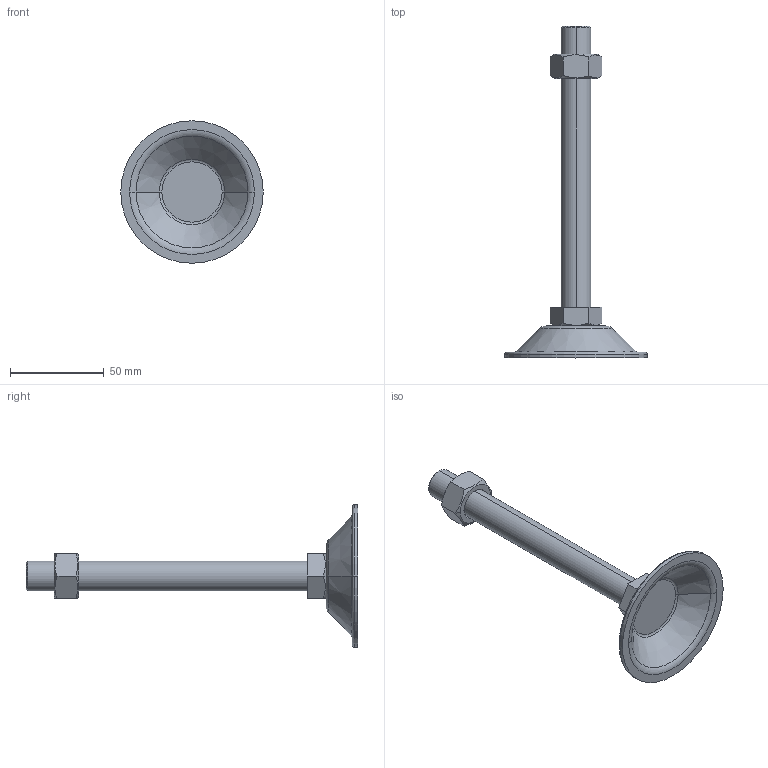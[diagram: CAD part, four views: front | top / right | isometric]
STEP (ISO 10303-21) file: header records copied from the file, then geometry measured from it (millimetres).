
FILE_DESCRIPTION (( 'STEP AP214' ), '1' );
FILE_NAME ('BL76-M16-150.step', '2021-01-06T05:39:49', ( '' ), ( '' ), 'SwSTEP 2.0', 'SolidWorks 2019', '' );
FILE_SCHEMA (( 'AUTOMOTIVE_DESIGN' ));
Length unit declared in the file: millimetre
Products named in the file (1): BL76-M16-150
Bounding box: 76 x 177 x 76 mm (x, y, z)
Volume: 54929.6 mm3; surface area: 22859.7 mm2
Topology: 3 solids, 3 shells, 53 faces, 110 edges, 66 vertices
Faces by surface type: plane 21, cone 16, torus 10, cylinder 6
Entity records: 1618 total; most frequent: CARTESIAN_POINT 428, DIRECTION 252, ORIENTED_EDGE 220, EDGE_CURVE 110, AXIS2_PLACEMENT_3D 106, VERTEX_POINT 66, EDGE_LOOP 58, ADVANCED_FACE 53
